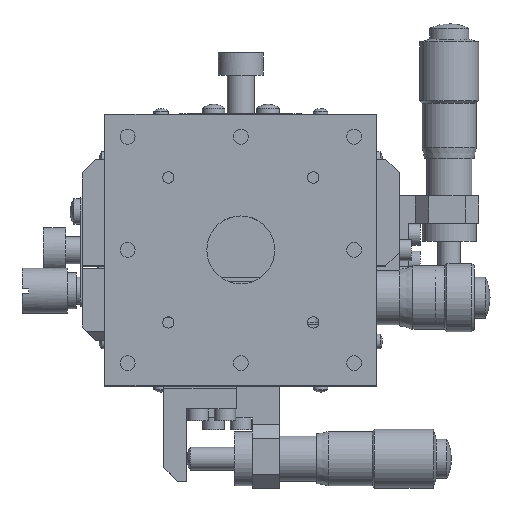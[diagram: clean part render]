
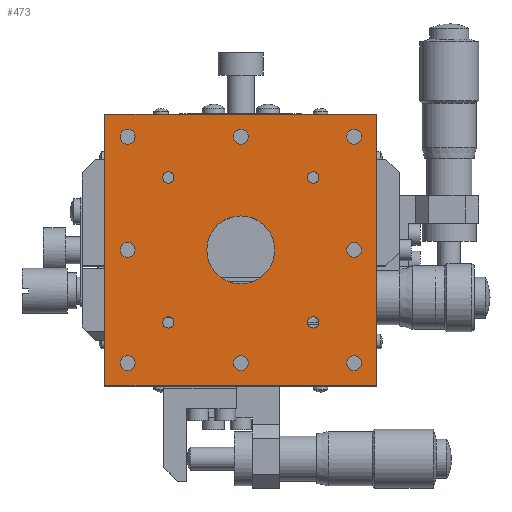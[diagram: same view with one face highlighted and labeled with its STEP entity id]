
A CAD part, top view. The second image highlights one B-rep face of the part: STEP entity #473.
In plain terms, the highlighted planar face has unit normal (0, 0, 1).
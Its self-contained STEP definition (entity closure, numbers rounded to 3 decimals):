
#473 = ADVANCED_FACE( '', ( #973, #974, #975, #976, #977, #978, #979, #980, #981, #982, #983, #984, #985, #986 ), #987, .T. );
#973 = FACE_BOUND( '', #2246, .T. );
#974 = FACE_BOUND( '', #2247, .T. );
#975 = FACE_BOUND( '', #2248, .T. );
#976 = FACE_BOUND( '', #2249, .T. );
#977 = FACE_BOUND( '', #2250, .T. );
#978 = FACE_BOUND( '', #2251, .T. );
#979 = FACE_BOUND( '', #2252, .T. );
#980 = FACE_BOUND( '', #2253, .T. );
#981 = FACE_BOUND( '', #2254, .T. );
#982 = FACE_BOUND( '', #2255, .T. );
#983 = FACE_BOUND( '', #2256, .T. );
#984 = FACE_BOUND( '', #2257, .T. );
#985 = FACE_BOUND( '', #2258, .T. );
#986 = FACE_OUTER_BOUND( '', #2259, .T. );
#987 = PLANE( '', #2260 );
#2246 = EDGE_LOOP( '', ( #3638 ) );
#2247 = EDGE_LOOP( '', ( #3639 ) );
#2248 = EDGE_LOOP( '', ( #3640 ) );
#2249 = EDGE_LOOP( '', ( #3641 ) );
#2250 = EDGE_LOOP( '', ( #3642 ) );
#2251 = EDGE_LOOP( '', ( #3643 ) );
#2252 = EDGE_LOOP( '', ( #3644 ) );
#2253 = EDGE_LOOP( '', ( #3645 ) );
#2254 = EDGE_LOOP( '', ( #3646 ) );
#2255 = EDGE_LOOP( '', ( #3647 ) );
#2256 = EDGE_LOOP( '', ( #3648 ) );
#2257 = EDGE_LOOP( '', ( #3649 ) );
#2258 = EDGE_LOOP( '', ( #3650 ) );
#2259 = EDGE_LOOP( '', ( #3651, #3652, #3653, #3654 ) );
#2260 = AXIS2_PLACEMENT_3D( '', #3655, #3656, #3657 );
#3638 = ORIENTED_EDGE( '', *, *, #6985, .T. );
#3639 = ORIENTED_EDGE( '', *, *, #6986, .T. );
#3640 = ORIENTED_EDGE( '', *, *, #6987, .T. );
#3641 = ORIENTED_EDGE( '', *, *, #6988, .T. );
#3642 = ORIENTED_EDGE( '', *, *, #6989, .T. );
#3643 = ORIENTED_EDGE( '', *, *, #6990, .T. );
#3644 = ORIENTED_EDGE( '', *, *, #6991, .T. );
#3645 = ORIENTED_EDGE( '', *, *, #6992, .T. );
#3646 = ORIENTED_EDGE( '', *, *, #6993, .T. );
#3647 = ORIENTED_EDGE( '', *, *, #6994, .T. );
#3648 = ORIENTED_EDGE( '', *, *, #6995, .T. );
#3649 = ORIENTED_EDGE( '', *, *, #6996, .T. );
#3650 = ORIENTED_EDGE( '', *, *, #6997, .T. );
#3651 = ORIENTED_EDGE( '', *, *, #6998, .F. );
#3652 = ORIENTED_EDGE( '', *, *, #6999, .F. );
#3653 = ORIENTED_EDGE( '', *, *, #7000, .F. );
#3654 = ORIENTED_EDGE( '', *, *, #7001, .F. );
#3655 = CARTESIAN_POINT( '', ( 0., 0., 62. ) );
#3656 = DIRECTION( '', ( 0., 0., 1. ) );
#3657 = DIRECTION( '', ( 1., 0., 0. ) );
#6985 = EDGE_CURVE( '', #8010, #8010, #8011, .T. );
#6986 = EDGE_CURVE( '', #8012, #8012, #8013, .T. );
#6987 = EDGE_CURVE( '', #8014, #8014, #8015, .T. );
#6988 = EDGE_CURVE( '', #8016, #8016, #8017, .T. );
#6989 = EDGE_CURVE( '', #8018, #8018, #8019, .T. );
#6990 = EDGE_CURVE( '', #8020, #8020, #8021, .T. );
#6991 = EDGE_CURVE( '', #8022, #8022, #8023, .T. );
#6992 = EDGE_CURVE( '', #8024, #8024, #8025, .T. );
#6993 = EDGE_CURVE( '', #8026, #8026, #8027, .T. );
#6994 = EDGE_CURVE( '', #8028, #8028, #8029, .T. );
#6995 = EDGE_CURVE( '', #8030, #8030, #8031, .T. );
#6996 = EDGE_CURVE( '', #8032, #8032, #8033, .T. );
#6997 = EDGE_CURVE( '', #8034, #8034, #8035, .T. );
#6998 = EDGE_CURVE( '', #8036, #8037, #8038, .T. );
#6999 = EDGE_CURVE( '', #8039, #8036, #8040, .T. );
#7000 = EDGE_CURVE( '', #8041, #8039, #8042, .T. );
#7001 = EDGE_CURVE( '', #8037, #8041, #8043, .T. );
#8010 = VERTEX_POINT( '', #9761 );
#8011 = CIRCLE( '', #9762, 7.5 );
#8012 = VERTEX_POINT( '', #9763 );
#8013 = CIRCLE( '', #9764, 1.25 );
#8014 = VERTEX_POINT( '', #9765 );
#8015 = CIRCLE( '', #9766, 1.25 );
#8016 = VERTEX_POINT( '', #9767 );
#8017 = CIRCLE( '', #9768, 1.25 );
#8018 = VERTEX_POINT( '', #9769 );
#8019 = CIRCLE( '', #9770, 1.25 );
#8020 = VERTEX_POINT( '', #9771 );
#8021 = CIRCLE( '', #9772, 1.65 );
#8022 = VERTEX_POINT( '', #9773 );
#8023 = CIRCLE( '', #9774, 1.65 );
#8024 = VERTEX_POINT( '', #9775 );
#8025 = CIRCLE( '', #9776, 1.65 );
#8026 = VERTEX_POINT( '', #9777 );
#8027 = CIRCLE( '', #9778, 1.65 );
#8028 = VERTEX_POINT( '', #9779 );
#8029 = CIRCLE( '', #9780, 1.65 );
#8030 = VERTEX_POINT( '', #9781 );
#8031 = CIRCLE( '', #9782, 1.65 );
#8032 = VERTEX_POINT( '', #9783 );
#8033 = CIRCLE( '', #9784, 1.65 );
#8034 = VERTEX_POINT( '', #9785 );
#8035 = CIRCLE( '', #9786, 1.65 );
#8036 = VERTEX_POINT( '', #9787 );
#8037 = VERTEX_POINT( '', #9788 );
#8038 = LINE( '', #9789, #9790 );
#8039 = VERTEX_POINT( '', #9791 );
#8040 = LINE( '', #9792, #9793 );
#8041 = VERTEX_POINT( '', #9794 );
#8042 = LINE( '', #9795, #9796 );
#8043 = LINE( '', #9797, #9798 );
#9761 = CARTESIAN_POINT( '', ( 7.5, 0., 62. ) );
#9762 = AXIS2_PLACEMENT_3D( '', #12334, #12335, #12336 );
#9763 = CARTESIAN_POINT( '', ( 17.25, 16., 62. ) );
#9764 = AXIS2_PLACEMENT_3D( '', #12337, #12338, #12339 );
#9765 = CARTESIAN_POINT( '', ( -14.75, 16., 62. ) );
#9766 = AXIS2_PLACEMENT_3D( '', #12340, #12341, #12342 );
#9767 = CARTESIAN_POINT( '', ( -14.75, -16., 62. ) );
#9768 = AXIS2_PLACEMENT_3D( '', #12343, #12344, #12345 );
#9769 = CARTESIAN_POINT( '', ( 17.25, -16., 62. ) );
#9770 = AXIS2_PLACEMENT_3D( '', #12346, #12347, #12348 );
#9771 = CARTESIAN_POINT( '', ( 1.65, -25., 62. ) );
#9772 = AXIS2_PLACEMENT_3D( '', #12349, #12350, #12351 );
#9773 = CARTESIAN_POINT( '', ( -23.35, -25., 62. ) );
#9774 = AXIS2_PLACEMENT_3D( '', #12352, #12353, #12354 );
#9775 = CARTESIAN_POINT( '', ( -23.35, 0., 62. ) );
#9776 = AXIS2_PLACEMENT_3D( '', #12355, #12356, #12357 );
#9777 = CARTESIAN_POINT( '', ( -23.35, 25., 62. ) );
#9778 = AXIS2_PLACEMENT_3D( '', #12358, #12359, #12360 );
#9779 = CARTESIAN_POINT( '', ( 1.65, 25., 62. ) );
#9780 = AXIS2_PLACEMENT_3D( '', #12361, #12362, #12363 );
#9781 = CARTESIAN_POINT( '', ( 26.65, 25., 62. ) );
#9782 = AXIS2_PLACEMENT_3D( '', #12364, #12365, #12366 );
#9783 = CARTESIAN_POINT( '', ( 26.65, 0., 62. ) );
#9784 = AXIS2_PLACEMENT_3D( '', #12367, #12368, #12369 );
#9785 = CARTESIAN_POINT( '', ( 26.65, -25., 62. ) );
#9786 = AXIS2_PLACEMENT_3D( '', #12370, #12371, #12372 );
#9787 = CARTESIAN_POINT( '', ( 30., -30., 62. ) );
#9788 = CARTESIAN_POINT( '', ( -30., -30., 62. ) );
#9789 = CARTESIAN_POINT( '', ( 0., -30., 62. ) );
#9790 = VECTOR( '', #12373, 1000. );
#9791 = CARTESIAN_POINT( '', ( 30., 30., 62. ) );
#9792 = CARTESIAN_POINT( '', ( 30., 0., 62. ) );
#9793 = VECTOR( '', #12374, 1000. );
#9794 = CARTESIAN_POINT( '', ( -30., 30., 62. ) );
#9795 = CARTESIAN_POINT( '', ( 0., 30., 62. ) );
#9796 = VECTOR( '', #12375, 1000. );
#9797 = CARTESIAN_POINT( '', ( -30., 0., 62. ) );
#9798 = VECTOR( '', #12376, 1000. );
#12334 = CARTESIAN_POINT( '', ( 0., 0., 62. ) );
#12335 = DIRECTION( '', ( 0., 0., -1. ) );
#12336 = DIRECTION( '', ( 1., 0., 0. ) );
#12337 = CARTESIAN_POINT( '', ( 16., 16., 62. ) );
#12338 = DIRECTION( '', ( 0., 0., -1. ) );
#12339 = DIRECTION( '', ( 1., 0., 0. ) );
#12340 = CARTESIAN_POINT( '', ( -16., 16., 62. ) );
#12341 = DIRECTION( '', ( 0., 0., -1. ) );
#12342 = DIRECTION( '', ( 1., 0., 0. ) );
#12343 = CARTESIAN_POINT( '', ( -16., -16., 62. ) );
#12344 = DIRECTION( '', ( 0., 0., -1. ) );
#12345 = DIRECTION( '', ( 1., 0., 0. ) );
#12346 = CARTESIAN_POINT( '', ( 16., -16., 62. ) );
#12347 = DIRECTION( '', ( 0., 0., -1. ) );
#12348 = DIRECTION( '', ( 1., 0., 0. ) );
#12349 = CARTESIAN_POINT( '', ( 0., -25., 62. ) );
#12350 = DIRECTION( '', ( 0., 0., -1. ) );
#12351 = DIRECTION( '', ( 1., 0., 0. ) );
#12352 = CARTESIAN_POINT( '', ( -25., -25., 62. ) );
#12353 = DIRECTION( '', ( 0., 0., -1. ) );
#12354 = DIRECTION( '', ( 1., 0., 0. ) );
#12355 = CARTESIAN_POINT( '', ( -25., 0., 62. ) );
#12356 = DIRECTION( '', ( 0., 0., -1. ) );
#12357 = DIRECTION( '', ( 1., 0., 0. ) );
#12358 = CARTESIAN_POINT( '', ( -25., 25., 62. ) );
#12359 = DIRECTION( '', ( 0., 0., -1. ) );
#12360 = DIRECTION( '', ( 1., 0., 0. ) );
#12361 = CARTESIAN_POINT( '', ( 0., 25., 62. ) );
#12362 = DIRECTION( '', ( 0., 0., -1. ) );
#12363 = DIRECTION( '', ( 1., 0., 0. ) );
#12364 = CARTESIAN_POINT( '', ( 25., 25., 62. ) );
#12365 = DIRECTION( '', ( 0., 0., -1. ) );
#12366 = DIRECTION( '', ( 1., 0., 0. ) );
#12367 = CARTESIAN_POINT( '', ( 25., 0., 62. ) );
#12368 = DIRECTION( '', ( 0., 0., -1. ) );
#12369 = DIRECTION( '', ( 1., 0., 0. ) );
#12370 = CARTESIAN_POINT( '', ( 25., -25., 62. ) );
#12371 = DIRECTION( '', ( 0., 0., -1. ) );
#12372 = DIRECTION( '', ( 1., 0., 0. ) );
#12373 = DIRECTION( '', ( -1., 0., 0. ) );
#12374 = DIRECTION( '', ( 0., -1., 0. ) );
#12375 = DIRECTION( '', ( 1., 0., 0. ) );
#12376 = DIRECTION( '', ( 0., 1., 0. ) );
